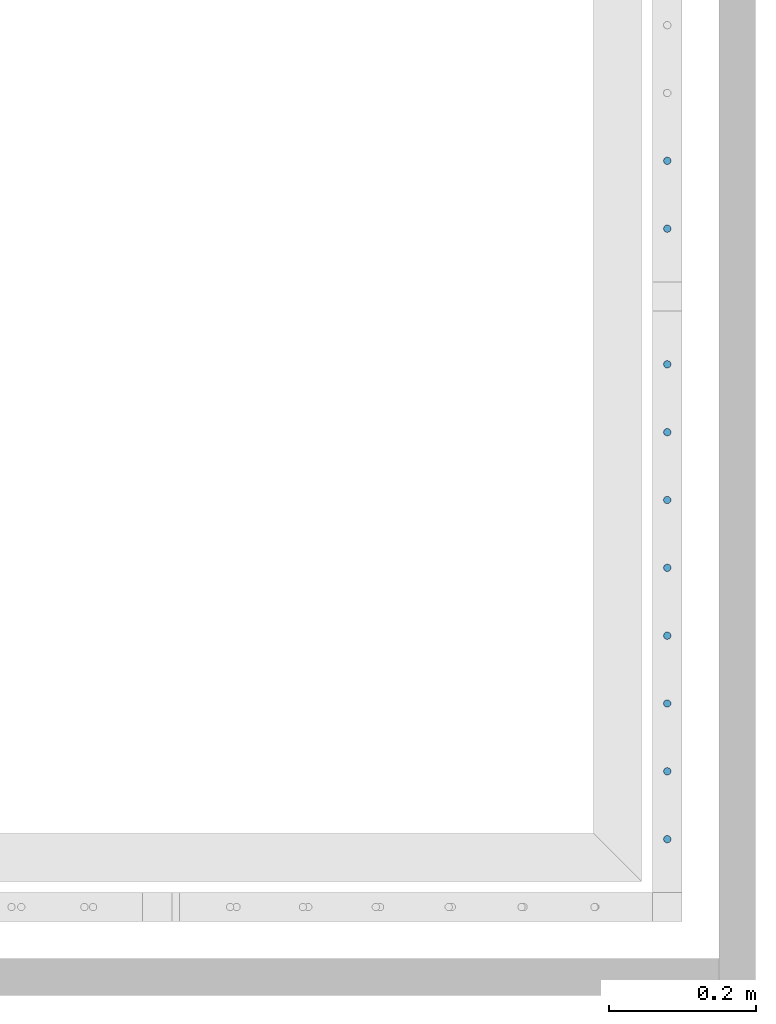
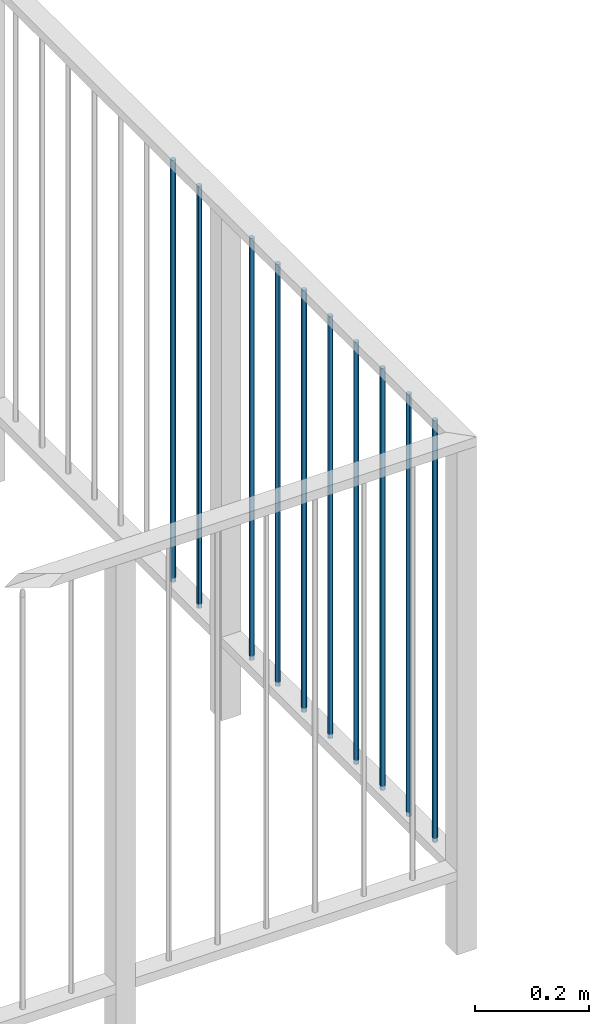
# One storey, part 38 of 135: 10 members, 1 element without a shape of its own.
"""IFC2X3 building model written with IfcOpenShell, lengths in millimetres."""

from ifc_helpers import new_model, entity, si_unit, converted_unit, derived_unit, money_unit, direction, frame, origin_with_axes, place, context, subcontext, project, spatial, faceted_brep, source, transform, mapped, material, type_object, type_shapes, element, aggregate, save


model = new_model("IFC2X3")

# Units and contexts
model_context = context("Model", 3, precision=0.01, world=origin_with_axes(), true_north=direction((0.0, 1.0)))
body_context = subcontext(model_context, "Body", "Model", "MODEL_VIEW")
ifc_project = project(units=[si_unit("LENGTHUNIT", "METRE", prefix="MILLI"), si_unit("AREAUNIT", "SQUARE_METRE"), si_unit("VOLUMEUNIT", "CUBIC_METRE"), converted_unit("PLANEANGLEUNIT", "DEGREE", entity("IfcPlaneAngleMeasure", 0.0174532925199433), si_unit("PLANEANGLEUNIT", "RADIAN"), dimensions=[0, 0, 0, 0, 0, 0, 0]), money_unit("EUR"), converted_unit("TIMEUNIT", "Year", entity("IfcTimeMeasure", 31557600.0), si_unit("TIMEUNIT", "SECOND"), dimensions=[0, 0, 1, 0, 0, 0, 0]), si_unit("MASSUNIT", "GRAM", prefix="KILO"), si_unit("THERMODYNAMICTEMPERATUREUNIT", "DEGREE_CELSIUS"), si_unit("LUMINOUSINTENSITYUNIT", "LUMEN"), si_unit("ENERGYUNIT", "JOULE", prefix="MEGA"), derived_unit("THERMALCONDUCTANCEUNIT", [(si_unit("POWERUNIT", "WATT"), 1), (si_unit("LENGTHUNIT", "METRE"), -1), (si_unit("THERMODYNAMICTEMPERATUREUNIT", "KELVIN"), -1)]), derived_unit("SPECIFICHEATCAPACITYUNIT", [(si_unit("ENERGYUNIT", "JOULE"), 1), (si_unit("MASSUNIT", "GRAM", prefix="KILO"), -1), (si_unit("THERMODYNAMICTEMPERATUREUNIT", "KELVIN"), -1)]), derived_unit("MASSDENSITYUNIT", [(si_unit("MASSUNIT", "GRAM", prefix="KILO"), 1), (si_unit("VOLUMEUNIT", "CUBIC_METRE"), -1)])], contexts=[model_context])

# Site, building, storey
site_placement = place(None, origin_with_axes())
site = spatial("IfcSite", under=ifc_project, at=site_placement, Name="Site", CompositionType="ELEMENT")
building_placement = place(site_placement, origin_with_axes())
building = spatial("IfcBuilding", under=site, at=building_placement, Name="Naam gebouw", CompositionType="ELEMENT")
storey_placement = place(building_placement, origin_with_axes())
storey = spatial("IfcBuildingStorey", under=building, at=storey_placement, Name="Begane grond N", CompositionType="ELEMENT", Elevation=0.0)

# Railing, members
railing_type = type_object("IfcRailingType", Name="Railing Type", PredefinedType="NOTDEFINED")
railing_placement = place(storey_placement, frame((56236.62159597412, 21185.9124251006, 4176.0), z_axis=(0.0, 0.0, 1.0), x_axis=(1.0, 0.0, 0.0)))
railing = element("IfcRailing", 1, at=railing_placement, inside=storey, type_object=railing_type, Name="_Reling-x", PredefinedType="NOTDEFINED")
ifc_material = material(Name="Metaal - Staal C")
member_type = type_object("IfcMemberType", Name="IfcMember", PredefinedType="MEMBER")
shared_shape = source(origin_with_axes(), body_context, "Body", "Brep", [
    faceted_brep([(0.0, -5.0, 0.0), (0.8682408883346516, -4.92403876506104, 0.0), (0.868240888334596, -4.92403876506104, 907.5000000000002), (0.0, -5.0, 907.5000000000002), (-0.868240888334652, -4.92403876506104, 0.0), (-1.710100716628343, -4.698463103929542, 0.0), (-2.500000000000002, -4.330127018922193, 0.0), (-3.213938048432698, -3.830222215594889, 0.0), (-3.830222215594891, -3.213938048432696, 0.0), (-4.330127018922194, -2.5, 0.0), (-4.698463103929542, -1.710100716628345, 0.0), (-4.924038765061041, -0.86824088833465, 0.0), (-5.0, 0.0, 0.0), (-4.92403876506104, 0.8682408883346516, 0.0), (-4.698463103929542, 1.710100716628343, 0.0), (-4.330127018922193, 2.500000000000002, 0.0), (-3.83022221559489, 3.213938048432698, 0.0), (-3.213938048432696, 3.83022221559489, 0.0), (-2.5, 4.330127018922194, 0.0), (-1.710100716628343, 4.698463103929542, 0.0), (-0.8682408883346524, 4.92403876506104, 0.0), (0.0, 5.0, 0.0), (0.8682408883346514, 4.92403876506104, 0.0), (1.710100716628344, 4.698463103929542, 0.0), (2.5, 4.330127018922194, 0.0), (3.213938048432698, 3.83022221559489, 0.0), (3.83022221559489, 3.213938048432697, 0.0), (4.330127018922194, 2.499999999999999, 0.0), (4.698463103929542, 1.710100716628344, 0.0), (4.92403876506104, 0.8682408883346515, 0.0), (5.0, 0.0, 0.0), (4.92403876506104, -0.8682408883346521, 0.0), (4.698463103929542, -1.710100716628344, 0.0), (4.330127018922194, -2.5, 0.0), (3.83022221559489, -3.213938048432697, 0.0), (3.213938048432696, -3.83022221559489, 0.0), (2.5, -4.330127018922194, 0.0), (1.710100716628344, -4.698463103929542, 0.0), (1.710100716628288, -4.698463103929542, 907.5000000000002), (2.499999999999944, -4.330127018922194, 907.5000000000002), (3.213938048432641, -3.83022221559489, 907.5000000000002), (3.830222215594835, -3.213938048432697, 907.5000000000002), (4.330127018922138, -2.5, 907.5000000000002), (4.698463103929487, -1.710100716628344, 907.5000000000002), (4.924038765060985, -0.8682408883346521, 907.5000000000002), (4.999999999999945, 0.0, 907.5000000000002), (4.924038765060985, 0.8682408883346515, 907.5000000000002), (4.698463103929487, 1.710100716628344, 907.5000000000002), (4.330127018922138, 2.499999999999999, 907.5000000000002), (3.830222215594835, 3.213938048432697, 907.5000000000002), (3.213938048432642, 3.83022221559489, 907.5000000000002), (2.499999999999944, 4.330127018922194, 907.5000000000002), (1.710100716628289, 4.698463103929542, 907.5000000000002), (0.8682408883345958, 4.92403876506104, 907.5000000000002), (0.0, 5.0, 907.5000000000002), (-0.868240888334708, 4.92403876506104, 907.5000000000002), (-1.710100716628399, 4.698463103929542, 907.5000000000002), (-2.500000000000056, 4.330127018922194, 907.5000000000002), (-3.213938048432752, 3.83022221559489, 907.5000000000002), (-3.830222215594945, 3.213938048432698, 907.5000000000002), (-4.330127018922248, 2.500000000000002, 907.5000000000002), (-4.698463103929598, 1.710100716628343, 907.5000000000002), (-4.924038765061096, 0.8682408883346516, 907.5000000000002), (-5.000000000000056, 0.0, 907.5000000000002), (-4.924038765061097, -0.86824088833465, 907.5000000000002), (-4.698463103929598, -1.710100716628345, 907.5000000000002), (-4.330127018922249, -2.5, 907.5000000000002), (-3.830222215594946, -3.213938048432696, 907.5000000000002), (-3.213938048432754, -3.830222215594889, 907.5000000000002), (-2.500000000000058, -4.330127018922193, 907.5000000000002), (-1.710100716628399, -4.698463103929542, 907.5000000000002), (-0.8682408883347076, -4.92403876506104, 907.5000000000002)], [[[0, 1, 2, 3]], [[0, 4, 5, 6, 7, 8, 9, 10, 11, 12, 13, 14, 15, 16, 17, 18, 19, 20, 21, 22, 23, 24, 25, 26, 27, 28, 29, 30, 31, 32, 33, 34, 35, 36, 37, 1]], [[1, 37, 38, 2]], [[3, 2, 38, 39, 40, 41, 42, 43, 44, 45, 46, 47, 48, 49, 50, 51, 52, 53, 54, 55, 56, 57, 58, 59, 60, 61, 62, 63, 64, 65, 66, 67, 68, 69, 70, 71]], [[4, 0, 3, 71]], [[5, 4, 71, 70]], [[6, 5, 70, 69]], [[7, 6, 69, 68]], [[8, 7, 68, 67]], [[9, 8, 67, 66]], [[10, 9, 66, 65]], [[11, 10, 65, 64]], [[12, 11, 64, 63]], [[13, 12, 63, 62]], [[14, 13, 62, 61]], [[15, 14, 61, 60]], [[16, 15, 60, 59]], [[17, 16, 59, 58]], [[18, 17, 58, 57]], [[19, 18, 57, 56]], [[20, 19, 56, 55]], [[21, 20, 55, 54]], [[22, 21, 54, 53]], [[23, 22, 53, 52]], [[24, 23, 52, 51]], [[25, 24, 51, 50]], [[26, 25, 50, 49]], [[27, 26, 49, 48]], [[28, 27, 48, 47]], [[29, 28, 47, 46]], [[30, 29, 46, 45]], [[31, 30, 45, 44]], [[32, 31, 44, 43]], [[33, 32, 43, 42]], [[34, 33, 42, 41]], [[35, 34, 41, 40]], [[36, 35, 40, 39]], [[37, 36, 39, 38]]]),
])
type_shapes(member_type, [shared_shape])
member_1_placement = place(railing_placement, frame((3908.378404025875, 67.22222222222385, 1806.673611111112), z_axis=(0.0, 0.0, 1.0), x_axis=(1.0, 0.0, 0.0)))
member_1 = element("IfcMember", 2, at=member_1_placement, type_object=member_type, material=ifc_material, Name="_Spijlen-x", ObjectType="MEMBER", context=body_context, shape_type="MappedRepresentation", body=[
    mapped(shared_shape, transform((0.0, 0.0, 0.0))),
])
member_2_placement = place(railing_placement, frame((3908.378404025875, 159.4444444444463, 1806.673611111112), z_axis=(0.0, 0.0, 1.0), x_axis=(1.0, 0.0, 0.0)))
member_2 = element("IfcMember", 3, at=member_2_placement, type_object=member_type, material=ifc_material, Name="_Spijlen-x", ObjectType="MEMBER", context=body_context, shape_type="MappedRepresentation", body=[
    mapped(shared_shape, transform((0.0, 0.0, 0.0))),
])
member_3_placement = place(railing_placement, frame((3908.378404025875, 251.6666666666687, 1806.673611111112), z_axis=(0.0, 0.0, 1.0), x_axis=(1.0, 0.0, 0.0)))
member_3 = element("IfcMember", 4, at=member_3_placement, type_object=member_type, material=ifc_material, Name="_Spijlen-x", ObjectType="MEMBER", context=body_context, shape_type="MappedRepresentation", body=[
    mapped(shared_shape, transform((0.0, 0.0, 0.0))),
])
member_4_placement = place(railing_placement, frame((3908.378404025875, 343.8888888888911, 1806.673611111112), z_axis=(0.0, 0.0, 1.0), x_axis=(1.0, 0.0, 0.0)))
member_4 = element("IfcMember", 5, at=member_4_placement, type_object=member_type, material=ifc_material, Name="_Spijlen-x", ObjectType="MEMBER", context=body_context, shape_type="MappedRepresentation", body=[
    mapped(shared_shape, transform((0.0, 0.0, 0.0))),
])
member_5_placement = place(railing_placement, frame((3908.378404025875, 436.1111111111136, 1806.673611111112), z_axis=(0.0, 0.0, 1.0), x_axis=(1.0, 0.0, 0.0)))
member_5 = element("IfcMember", 6, at=member_5_placement, type_object=member_type, material=ifc_material, Name="_Spijlen-x", ObjectType="MEMBER", context=body_context, shape_type="MappedRepresentation", body=[
    mapped(shared_shape, transform((0.0, 0.0, 0.0))),
])
member_6_placement = place(railing_placement, frame((3908.378404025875, 528.333333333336, 1806.673611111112), z_axis=(0.0, 0.0, 1.0), x_axis=(1.0, 0.0, 0.0)))
member_6 = element("IfcMember", 7, at=member_6_placement, type_object=member_type, material=ifc_material, Name="_Spijlen-x", ObjectType="MEMBER", context=body_context, shape_type="MappedRepresentation", body=[
    mapped(shared_shape, transform((0.0, 0.0, 0.0))),
])
member_7_placement = place(railing_placement, frame((3908.378404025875, 620.5555555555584, 1806.673611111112), z_axis=(0.0, 0.0, 1.0), x_axis=(1.0, 0.0, 0.0)))
member_7 = element("IfcMember", 8, at=member_7_placement, type_object=member_type, material=ifc_material, Name="_Spijlen-x", ObjectType="MEMBER", context=body_context, shape_type="MappedRepresentation", body=[
    mapped(shared_shape, transform((0.0, 0.0, 0.0))),
])
member_8_placement = place(railing_placement, frame((3908.378404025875, 712.7777777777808, 1806.673611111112), z_axis=(0.0, 0.0, 1.0), x_axis=(1.0, 0.0, 0.0)))
member_8 = element("IfcMember", 9, at=member_8_placement, type_object=member_type, material=ifc_material, Name="_Spijlen-x", ObjectType="MEMBER", context=body_context, shape_type="MappedRepresentation", body=[
    mapped(shared_shape, transform((0.0, 0.0, 0.0))),
])
member_9_placement = place(railing_placement, frame((3908.378404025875, 897.2222222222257, 1806.673611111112), z_axis=(0.0, 0.0, 1.0), x_axis=(1.0, 0.0, 0.0)))
member_9 = element("IfcMember", 10, at=member_9_placement, type_object=member_type, material=ifc_material, Name="_Spijlen-x", ObjectType="MEMBER", context=body_context, shape_type="MappedRepresentation", body=[
    mapped(shared_shape, transform((0.0, 0.0, 0.0))),
])
member_10_placement = place(railing_placement, frame((3908.378404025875, 989.4444444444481, 1806.673611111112), z_axis=(0.0, 0.0, 1.0), x_axis=(1.0, 0.0, 0.0)))
member_10 = element("IfcMember", 11, at=member_10_placement, type_object=member_type, material=ifc_material, Name="_Spijlen-x", ObjectType="MEMBER", context=body_context, shape_type="MappedRepresentation", body=[
    mapped(shared_shape, transform((0.0, 0.0, 0.0))),
])
aggregate(railing, [member_1, member_2, member_3, member_4, member_5, member_6, member_7, member_8, member_9, member_10])

save(model, "model.ifc")
